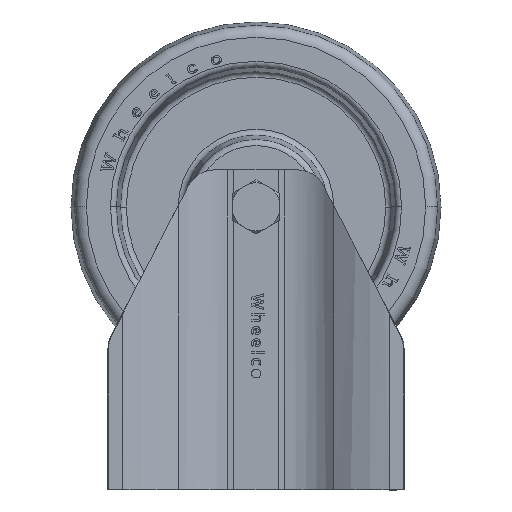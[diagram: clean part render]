
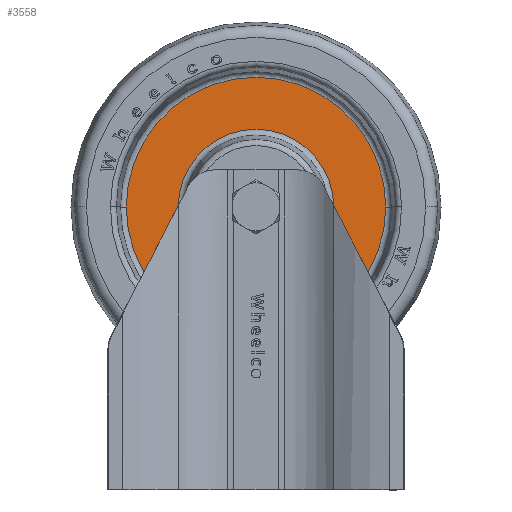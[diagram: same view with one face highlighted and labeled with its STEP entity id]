
A CAD part, top view. The second image highlights one B-rep face of the part: STEP entity #3558.
In plain terms, the highlighted planar face has unit normal (0, 0, 1) as drawn and (0, 1, 0) by its records, which use the part's own axes.
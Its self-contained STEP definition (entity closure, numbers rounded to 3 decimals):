
#1210 = CARTESIAN_POINT ( 'NONE',  ( 0., 6., -26.266 ) ) ;
#3558 = ADVANCED_FACE ( 'NONE', ( #9142, #37073 ), #44809, .T. ) ;
#4033 = ORIENTED_EDGE ( 'NONE', *, *, #41327, .F. ) ;
#7184 = CARTESIAN_POINT ( 'NONE',  ( 0., 6., 0. ) ) ;
#7280 = CARTESIAN_POINT ( 'NONE',  ( 0., 6., -43.818 ) ) ;
#7639 = ORIENTED_EDGE ( 'NONE', *, *, #12689, .T. ) ;
#7779 = ORIENTED_EDGE ( 'NONE', *, *, #10530, .T. ) ;
#9049 = DIRECTION ( 'NONE',  ( 0., -1., 0. ) ) ;
#9142 = FACE_BOUND ( 'NONE', #23703, .T. ) ;
#10530 = EDGE_CURVE ( 'NONE', #17459, #21956, #19221, .T. ) ;
#10637 = DIRECTION ( 'NONE',  ( 0., 0., -1. ) ) ;
#12689 = EDGE_CURVE ( 'NONE', #21956, #17459, #29046, .T. ) ;
#13744 = DIRECTION ( 'NONE',  ( 0., 0., -1. ) ) ;
#15204 = AXIS2_PLACEMENT_3D ( 'NONE', #7184, #24762, #13744 ) ;
#17459 = VERTEX_POINT ( 'NONE', #26321 ) ;
#18124 = EDGE_LOOP ( 'NONE', ( #40145, #4033 ) ) ;
#18334 = DIRECTION ( 'NONE',  ( 0., -1., 0. ) ) ;
#19221 = CIRCLE ( 'NONE', #26711, 26.266 ) ;
#20489 = CIRCLE ( 'NONE', #33325, 43.818 ) ;
#21956 = VERTEX_POINT ( 'NONE', #1210 ) ;
#23703 = EDGE_LOOP ( 'NONE', ( #7639, #7779 ) ) ;
#24762 = DIRECTION ( 'NONE',  ( 0., -1., 0. ) ) ;
#26321 = CARTESIAN_POINT ( 'NONE',  ( 0., 6., 26.266 ) ) ;
#26711 = AXIS2_PLACEMENT_3D ( 'NONE', #35081, #9049, #34857 ) ;
#28184 = VERTEX_POINT ( 'NONE', #36645 ) ;
#28325 = AXIS2_PLACEMENT_3D ( 'NONE', #31990, #18334, #10637 ) ;
#28371 = DIRECTION ( 'NONE',  ( 0., 1., 0. ) ) ;
#29046 = CIRCLE ( 'NONE', #28325, 26.266 ) ;
#29474 = CIRCLE ( 'NONE', #15204, 43.818 ) ;
#31191 = DIRECTION ( 'NONE',  ( 0., 0., 1. ) ) ;
#31216 = CARTESIAN_POINT ( 'NONE',  ( 0., 6., 0. ) ) ;
#31462 = DIRECTION ( 'NONE',  ( 0., -1., 0. ) ) ;
#31990 = CARTESIAN_POINT ( 'NONE',  ( 0., 6., 0. ) ) ;
#33325 = AXIS2_PLACEMENT_3D ( 'NONE', #31216, #31462, #45751 ) ;
#34857 = DIRECTION ( 'NONE',  ( 0., 0., -1. ) ) ;
#35081 = CARTESIAN_POINT ( 'NONE',  ( 0., 6., 0. ) ) ;
#36645 = CARTESIAN_POINT ( 'NONE',  ( 0., 6., 43.818 ) ) ;
#37073 = FACE_OUTER_BOUND ( 'NONE', #18124, .T. ) ;
#39691 = VERTEX_POINT ( 'NONE', #7280 ) ;
#40145 = ORIENTED_EDGE ( 'NONE', *, *, #44024, .F. ) ;
#41327 = EDGE_CURVE ( 'NONE', #28184, #39691, #29474, .T. ) ;
#41424 = AXIS2_PLACEMENT_3D ( 'NONE', #41746, #28371, #31191 ) ;
#41746 = CARTESIAN_POINT ( 'NONE',  ( 26.266, 6., 0. ) ) ;
#44024 = EDGE_CURVE ( 'NONE', #39691, #28184, #20489, .T. ) ;
#44809 = PLANE ( 'NONE',  #41424 ) ;
#45751 = DIRECTION ( 'NONE',  ( 0., 0., -1. ) ) ;
